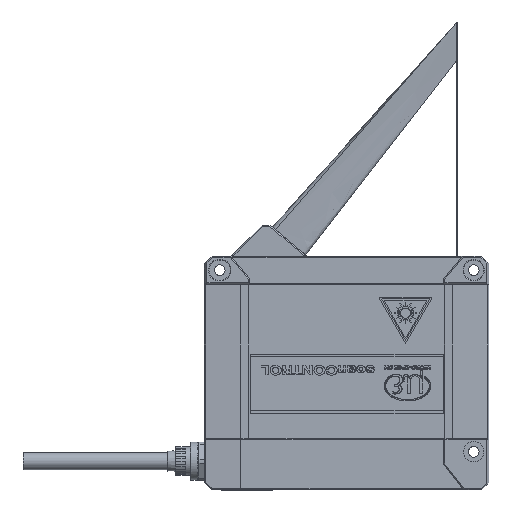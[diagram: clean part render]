
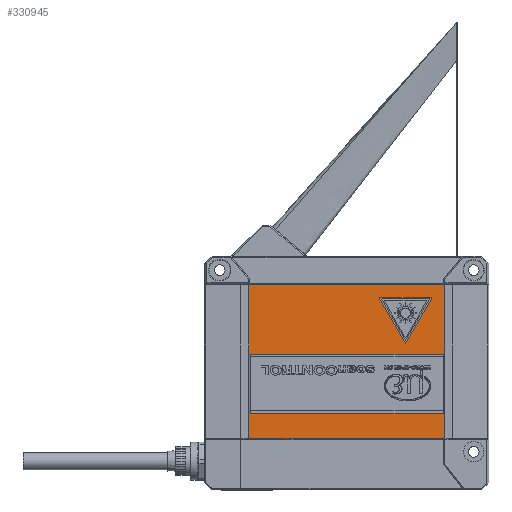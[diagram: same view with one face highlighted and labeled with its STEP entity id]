
A CAD part, left-side view. The second image highlights one B-rep face of the part: STEP entity #330945.
In plain terms, the highlighted planar face has unit normal (-1, 0, 0).
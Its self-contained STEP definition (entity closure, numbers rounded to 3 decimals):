
#5006 = CARTESIAN_POINT ( 'NONE',  ( -19.3, 10., -16.2 ) ) ;
#5486 = VECTOR ( 'NONE', #94203, 1000. ) ;
#5932 = VERTEX_POINT ( 'NONE', #42135 ) ;
#7158 = ORIENTED_EDGE ( 'NONE', *, *, #113336, .F. ) ;
#8279 = DIRECTION ( 'NONE',  ( 1., 0., 0. ) ) ;
#8461 = VERTEX_POINT ( 'NONE', #229233 ) ;
#9460 = DIRECTION ( 'NONE',  ( 0., 1., 0. ) ) ;
#12309 = FACE_OUTER_BOUND ( 'NONE', #95517, .T. ) ;
#12555 = AXIS2_PLACEMENT_3D ( 'NONE', #222019, #95264, #14032 ) ;
#12990 = VECTOR ( 'NONE', #299731, 1000. ) ;
#14032 = DIRECTION ( 'NONE',  ( 0., -1., 0. ) ) ;
#18706 = VERTEX_POINT ( 'NONE', #281289 ) ;
#20305 = AXIS2_PLACEMENT_3D ( 'NONE', #323825, #219715, #302888 ) ;
#24509 = ORIENTED_EDGE ( 'NONE', *, *, #117920, .F. ) ;
#25375 = VECTOR ( 'NONE', #44991, 1000. ) ;
#30775 = DIRECTION ( 'NONE',  ( 0., -0.5, -0.866 ) ) ;
#31413 = DIRECTION ( 'NONE',  ( 0., 0., -1. ) ) ;
#32450 = LINE ( 'NONE', #216037, #293488 ) ;
#34119 = ORIENTED_EDGE ( 'NONE', *, *, #170385, .F. ) ;
#35521 = EDGE_CURVE ( 'NONE', #18706, #206416, #103511, .T. ) ;
#36484 = EDGE_CURVE ( 'NONE', #161875, #146852, #181227, .T. ) ;
#37264 = LINE ( 'NONE', #226001, #5486 ) ;
#38829 = EDGE_LOOP ( 'NONE', ( #7158, #203409, #252735, #249754 ) ) ;
#42135 = CARTESIAN_POINT ( 'NONE',  ( -19.3, 20.154, -33.787 ) ) ;
#42176 = VECTOR ( 'NONE', #288796, 1000. ) ;
#44991 = DIRECTION ( 'NONE',  ( 0., 1., 0. ) ) ;
#46664 = CARTESIAN_POINT ( 'NONE',  ( -19.3, 81.4, -61.5 ) ) ;
#50140 = VERTEX_POINT ( 'NONE', #46664 ) ;
#53876 = VECTOR ( 'NONE', #212205, 1000. ) ;
#68866 = VERTEX_POINT ( 'NONE', #5006 ) ;
#73040 = CARTESIAN_POINT ( 'NONE',  ( -19.3, 5., -71.5 ) ) ;
#74673 = CARTESIAN_POINT ( 'NONE',  ( -19.3, 5., -10.9 ) ) ;
#77905 = ORIENTED_EDGE ( 'NONE', *, *, #128244, .T. ) ;
#94203 = DIRECTION ( 'NONE',  ( 0., 0., 1. ) ) ;
#95264 = DIRECTION ( 'NONE',  ( 1., 0., 0. ) ) ;
#95517 = EDGE_LOOP ( 'NONE', ( #246544, #77905, #232338, #254958 ) ) ;
#100459 = VERTEX_POINT ( 'NONE', #282654 ) ;
#103156 = EDGE_CURVE ( 'NONE', #18706, #68866, #191518, .T. ) ;
#103511 = LINE ( 'NONE', #287447, #25375 ) ;
#110745 = CARTESIAN_POINT ( 'NONE',  ( -19.3, 20.327, -34.087 ) ) ;
#113336 = EDGE_CURVE ( 'NONE', #100459, #50140, #161161, .T. ) ;
#115901 = DIRECTION ( 'NONE',  ( 0., -1., 0. ) ) ;
#117580 = CARTESIAN_POINT ( 'NONE',  ( -19.3, 5.5, -61.5 ) ) ;
#117920 = EDGE_CURVE ( 'NONE', #135071, #185714, #32450, .T. ) ;
#119383 = AXIS2_PLACEMENT_3D ( 'NONE', #322035, #8279, #141504 ) ;
#120436 = CARTESIAN_POINT ( 'NONE',  ( -19.3, 30.654, -16.2 ) ) ;
#128244 = EDGE_CURVE ( 'NONE', #317213, #138641, #214959, .T. ) ;
#129220 = ORIENTED_EDGE ( 'NONE', *, *, #103156, .T. ) ;
#132913 = EDGE_CURVE ( 'NONE', #135071, #206416, #329947, .T. ) ;
#134140 = DIRECTION ( 'NONE',  ( 0., 1., 0. ) ) ;
#134295 = EDGE_CURVE ( 'NONE', #8461, #250726, #319752, .T. ) ;
#135071 = VERTEX_POINT ( 'NONE', #120436 ) ;
#138641 = VERTEX_POINT ( 'NONE', #73040 ) ;
#138680 = AXIS2_PLACEMENT_3D ( 'NONE', #153356, #342339, #134140 ) ;
#141504 = DIRECTION ( 'NONE',  ( 0., 1., 0. ) ) ;
#146852 = VERTEX_POINT ( 'NONE', #207181 ) ;
#153356 = CARTESIAN_POINT ( 'NONE',  ( -19.3, 20.327, -33.687 ) ) ;
#155166 = CARTESIAN_POINT ( 'NONE',  ( -19.3, 82., -10.9 ) ) ;
#161161 = LINE ( 'NONE', #284951, #306007 ) ;
#161875 = VERTEX_POINT ( 'NONE', #74673 ) ;
#170385 = EDGE_CURVE ( 'NONE', #5932, #68866, #235789, .T. ) ;
#171883 = CIRCLE ( 'NONE', #138680, 0.2 ) ;
#181227 = LINE ( 'NONE', #155166, #42176 ) ;
#182212 = VECTOR ( 'NONE', #294783, 1000. ) ;
#182475 = CARTESIAN_POINT ( 'NONE',  ( -19.3, 30.48, -15.9 ) ) ;
#185714 = VERTEX_POINT ( 'NONE', #332564 ) ;
#186436 = EDGE_CURVE ( 'NONE', #138641, #161875, #37264, .T. ) ;
#190786 = ORIENTED_EDGE ( 'NONE', *, *, #132913, .T. ) ;
#191518 = CIRCLE ( 'NONE', #119383, 0.2 ) ;
#192054 = CARTESIAN_POINT ( 'NONE',  ( -19.3, 5.5, -38.224 ) ) ;
#193011 = CARTESIAN_POINT ( 'NONE',  ( -19.3, 5.5, -38.224 ) ) ;
#201535 = EDGE_CURVE ( 'NONE', #250726, #100459, #246936, .T. ) ;
#203409 = ORIENTED_EDGE ( 'NONE', *, *, #201535, .F. ) ;
#206416 = VERTEX_POINT ( 'NONE', #182475 ) ;
#207181 = CARTESIAN_POINT ( 'NONE',  ( -19.3, 82., -10.9 ) ) ;
#212205 = DIRECTION ( 'NONE',  ( 0., 0., 1. ) ) ;
#212800 = ORIENTED_EDGE ( 'NONE', *, *, #272440, .T. ) ;
#214248 = VECTOR ( 'NONE', #115901, 1000. ) ;
#214959 = LINE ( 'NONE', #320800, #182212 ) ;
#216037 = CARTESIAN_POINT ( 'NONE',  ( -19.3, 30.827, -15.9 ) ) ;
#219715 = DIRECTION ( 'NONE',  ( 1., 0., 0. ) ) ;
#219916 = ORIENTED_EDGE ( 'NONE', *, *, #35521, .F. ) ;
#220853 = CARTESIAN_POINT ( 'NONE',  ( -19.3, 5.5, -38.224 ) ) ;
#222019 = CARTESIAN_POINT ( 'NONE',  ( -19.3, 5., -110.7 ) ) ;
#226001 = CARTESIAN_POINT ( 'NONE',  ( -19.3, 5., -110.7 ) ) ;
#228946 = VECTOR ( 'NONE', #9460, 1000. ) ;
#229233 = CARTESIAN_POINT ( 'NONE',  ( -19.3, 5.5, -61.5 ) ) ;
#232338 = ORIENTED_EDGE ( 'NONE', *, *, #186436, .T. ) ;
#235789 = LINE ( 'NONE', #110745, #12990 ) ;
#238857 = VECTOR ( 'NONE', #261831, 1000. ) ;
#246544 = ORIENTED_EDGE ( 'NONE', *, *, #272980, .F. ) ;
#246936 = LINE ( 'NONE', #220853, #228946 ) ;
#249754 = ORIENTED_EDGE ( 'NONE', *, *, #284866, .F. ) ;
#250726 = VERTEX_POINT ( 'NONE', #192054 ) ;
#252735 = ORIENTED_EDGE ( 'NONE', *, *, #134295, .F. ) ;
#254958 = ORIENTED_EDGE ( 'NONE', *, *, #36484, .T. ) ;
#261831 = DIRECTION ( 'NONE',  ( 0., 0., 1. ) ) ;
#272440 = EDGE_CURVE ( 'NONE', #5932, #185714, #171883, .T. ) ;
#272980 = EDGE_CURVE ( 'NONE', #317213, #146852, #341530, .T. ) ;
#273792 = LINE ( 'NONE', #117580, #214248 ) ;
#276953 = CARTESIAN_POINT ( 'NONE',  ( -19.3, 82., -71.5 ) ) ;
#281289 = CARTESIAN_POINT ( 'NONE',  ( -19.3, 10.173, -15.9 ) ) ;
#282654 = CARTESIAN_POINT ( 'NONE',  ( -19.3, 81.4, -38.224 ) ) ;
#282772 = CARTESIAN_POINT ( 'NONE',  ( -19.3, 82., -110.7 ) ) ;
#284866 = EDGE_CURVE ( 'NONE', #50140, #8461, #273792, .T. ) ;
#284951 = CARTESIAN_POINT ( 'NONE',  ( -19.3, 81.4, -38.224 ) ) ;
#287447 = CARTESIAN_POINT ( 'NONE',  ( -19.3, 9.827, -15.9 ) ) ;
#288796 = DIRECTION ( 'NONE',  ( 0., 1., 0. ) ) ;
#293488 = VECTOR ( 'NONE', #30775, 1000. ) ;
#294783 = DIRECTION ( 'NONE',  ( 0., -1., 0. ) ) ;
#299731 = DIRECTION ( 'NONE',  ( 0., -0.5, 0.866 ) ) ;
#302888 = DIRECTION ( 'NONE',  ( 0., 1., 0. ) ) ;
#303466 = FACE_BOUND ( 'NONE', #38829, .T. ) ;
#306007 = VECTOR ( 'NONE', #31413, 1000. ) ;
#317213 = VERTEX_POINT ( 'NONE', #276953 ) ;
#319752 = LINE ( 'NONE', #193011, #53876 ) ;
#320800 = CARTESIAN_POINT ( 'NONE',  ( -19.3, 5., -71.5 ) ) ;
#322035 = CARTESIAN_POINT ( 'NONE',  ( -19.3, 10.173, -16.1 ) ) ;
#323825 = CARTESIAN_POINT ( 'NONE',  ( -19.3, 30.48, -16.1 ) ) ;
#329947 = CIRCLE ( 'NONE', #20305, 0.2 ) ;
#330945 = ADVANCED_FACE ( 'NONE', ( #303466, #12309, #334499 ), #332823, .F. ) ;
#332564 = CARTESIAN_POINT ( 'NONE',  ( -19.3, 20.5, -33.787 ) ) ;
#332823 = PLANE ( 'NONE',  #12555 ) ;
#334499 = FACE_BOUND ( 'NONE', #334911, .T. ) ;
#334911 = EDGE_LOOP ( 'NONE', ( #34119, #212800, #24509, #190786, #219916, #129220 ) ) ;
#341530 = LINE ( 'NONE', #282772, #238857 ) ;
#342339 = DIRECTION ( 'NONE',  ( 1., 0., 0. ) ) ;
